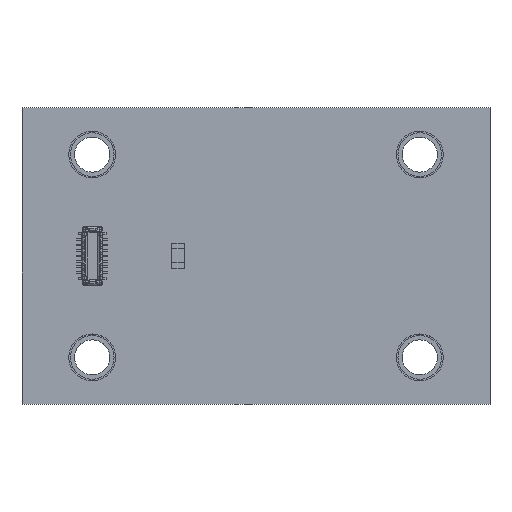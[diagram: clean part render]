
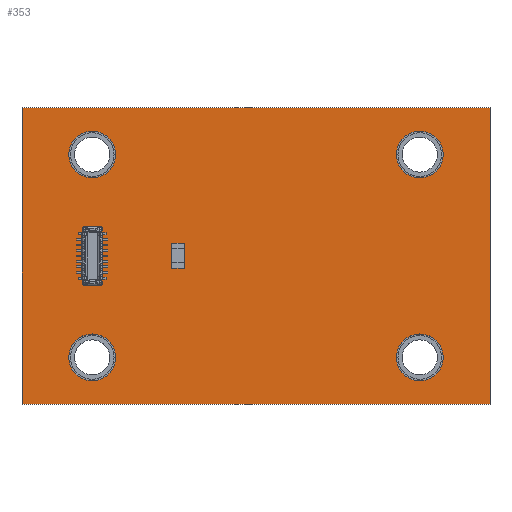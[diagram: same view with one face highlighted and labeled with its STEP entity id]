
A CAD part, top view. The second image highlights one B-rep face of the part: STEP entity #353.
In plain terms, the highlighted planar face has unit normal (0, 0, 1).
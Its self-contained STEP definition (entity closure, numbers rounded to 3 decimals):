
#80 = VERTEX_POINT('',#81);
#81 = CARTESIAN_POINT('',(-15.,-9.5,1.67));
#87 = EDGE_CURVE('',#80,#88,#90,.T.);
#88 = VERTEX_POINT('',#89);
#89 = CARTESIAN_POINT('',(15.,-9.5,1.67));
#90 = LINE('',#91,#92);
#91 = CARTESIAN_POINT('',(-15.,-9.5,1.67));
#92 = VECTOR('',#93,1.);
#93 = DIRECTION('',(1.,0.,0.));
#118 = EDGE_CURVE('',#88,#119,#121,.T.);
#119 = VERTEX_POINT('',#120);
#120 = CARTESIAN_POINT('',(15.,9.5,1.67));
#121 = LINE('',#122,#123);
#122 = CARTESIAN_POINT('',(15.,-9.5,1.67));
#123 = VECTOR('',#124,1.);
#124 = DIRECTION('',(0.,1.,0.));
#149 = EDGE_CURVE('',#119,#150,#152,.T.);
#150 = VERTEX_POINT('',#151);
#151 = CARTESIAN_POINT('',(-15.,9.5,1.67));
#152 = LINE('',#153,#154);
#153 = CARTESIAN_POINT('',(15.,9.5,1.67));
#154 = VECTOR('',#155,1.);
#155 = DIRECTION('',(-1.,0.,0.));
#180 = EDGE_CURVE('',#150,#80,#181,.T.);
#181 = LINE('',#182,#183);
#182 = CARTESIAN_POINT('',(-15.,9.5,1.67));
#183 = VECTOR('',#184,1.);
#184 = DIRECTION('',(0.,-1.,0.));
#204 = VERTEX_POINT('',#205);
#205 = CARTESIAN_POINT('',(-9.,-6.5,1.67));
#211 = EDGE_CURVE('',#204,#204,#212,.T.);
#212 = CIRCLE('',#213,1.5);
#213 = AXIS2_PLACEMENT_3D('',#214,#215,#216);
#214 = CARTESIAN_POINT('',(-10.5,-6.5,1.67));
#215 = DIRECTION('',(0.,0.,1.));
#216 = DIRECTION('',(1.,0.,0.));
#237 = VERTEX_POINT('',#238);
#238 = CARTESIAN_POINT('',(-9.,6.5,1.67));
#244 = EDGE_CURVE('',#237,#237,#245,.T.);
#245 = CIRCLE('',#246,1.5);
#246 = AXIS2_PLACEMENT_3D('',#247,#248,#249);
#247 = CARTESIAN_POINT('',(-10.5,6.5,1.67));
#248 = DIRECTION('',(0.,0.,1.));
#249 = DIRECTION('',(1.,0.,0.));
#270 = VERTEX_POINT('',#271);
#271 = CARTESIAN_POINT('',(12.,-6.5,1.67));
#277 = EDGE_CURVE('',#270,#270,#278,.T.);
#278 = CIRCLE('',#279,1.5);
#279 = AXIS2_PLACEMENT_3D('',#280,#281,#282);
#280 = CARTESIAN_POINT('',(10.5,-6.5,1.67));
#281 = DIRECTION('',(0.,0.,1.));
#282 = DIRECTION('',(1.,0.,0.));
#303 = VERTEX_POINT('',#304);
#304 = CARTESIAN_POINT('',(12.,6.5,1.67));
#310 = EDGE_CURVE('',#303,#303,#311,.T.);
#311 = CIRCLE('',#312,1.5);
#312 = AXIS2_PLACEMENT_3D('',#313,#314,#315);
#313 = CARTESIAN_POINT('',(10.5,6.5,1.67));
#314 = DIRECTION('',(0.,0.,1.));
#315 = DIRECTION('',(1.,0.,0.));
#353 = ADVANCED_FACE('',(#354,#360,#363,#366,#369),#372,.F.);
#354 = FACE_BOUND('',#355,.T.);
#355 = EDGE_LOOP('',(#356,#357,#358,#359));
#356 = ORIENTED_EDGE('',*,*,#87,.T.);
#357 = ORIENTED_EDGE('',*,*,#118,.T.);
#358 = ORIENTED_EDGE('',*,*,#149,.T.);
#359 = ORIENTED_EDGE('',*,*,#180,.T.);
#360 = FACE_BOUND('',#361,.F.);
#361 = EDGE_LOOP('',(#362));
#362 = ORIENTED_EDGE('',*,*,#211,.T.);
#363 = FACE_BOUND('',#364,.F.);
#364 = EDGE_LOOP('',(#365));
#365 = ORIENTED_EDGE('',*,*,#244,.T.);
#366 = FACE_BOUND('',#367,.F.);
#367 = EDGE_LOOP('',(#368));
#368 = ORIENTED_EDGE('',*,*,#277,.T.);
#369 = FACE_BOUND('',#370,.F.);
#370 = EDGE_LOOP('',(#371));
#371 = ORIENTED_EDGE('',*,*,#310,.T.);
#372 = PLANE('',#373);
#373 = AXIS2_PLACEMENT_3D('',#374,#375,#376);
#374 = CARTESIAN_POINT('',(-15.,-9.5,1.67));
#375 = DIRECTION('',(0.,0.,-1.));
#376 = DIRECTION('',(-1.,0.,0.));
